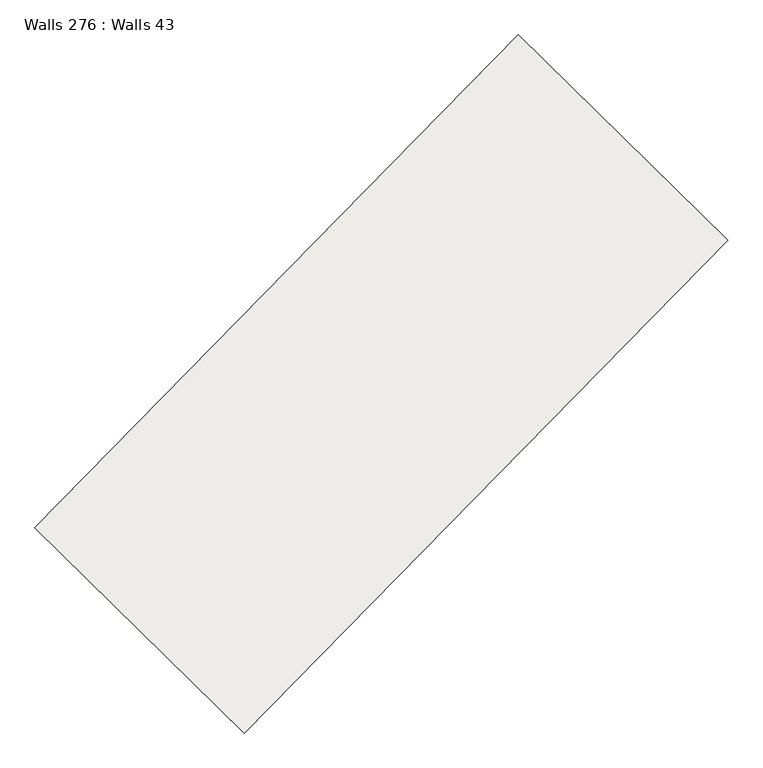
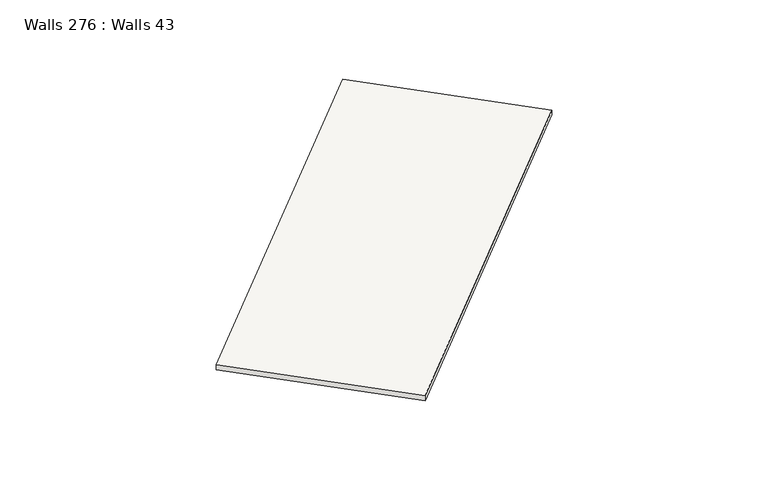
"""IFC4 building model written with IfcOpenShell, lengths in millimetres: slab geometry, Walls 276 : Walls 43."""

from ifc_helpers import new_model, si_unit, frame, origin, place, context, project, spatial, polyline, outline, extrude, source, transform, mapped, element, save


def walls_276_walls_43_938396b4(model_context):
    return source(origin(), model_context, "Body", "SweptSolid", [
        extrude(outline(polyline([(-50.0, 0.0), (50.0, 0.0), (-30.0, -8699.9999996), (-130.0, -8699.9999996), (-50.0, 0.0)])), frame((-121822.3427258, -283484.2420092, 636270.0), z_axis=(-0.7137361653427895, 0.7004146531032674, 0.0), x_axis=(0.0, 0.0, 1.0)), (0.0, 0.0, 1.0), 3699.999995),
    ])


if __name__ == "__main__":
    model = new_model("IFC4")
    model_context = context("Model", 3, world=origin())
    ifc_project = project(units=[si_unit("LENGTHUNIT", "METRE", prefix="MILLI")], contexts=[model_context])
    site = spatial("IfcSite", under=ifc_project)
    building = spatial("IfcBuilding", under=site)
    placement = place(None, origin())
    walls_276_walls_43_shape = walls_276_walls_43_938396b4(model_context)
    element("IfcSlab", 1, ObjectType="Walls 276 : Walls 43", at=placement, inside=building, context=model_context, shape_type="MappedRepresentation", body=[
        mapped(walls_276_walls_43_shape, transform((0.0, 0.0, 0.0), x_axis=(1.0, 0.0, 0.0), y_axis=(0.0, 1.0, 0.0), z_axis=(0.0, 0.0, 1.0))),
    ])
    save(model, "model.ifc")
